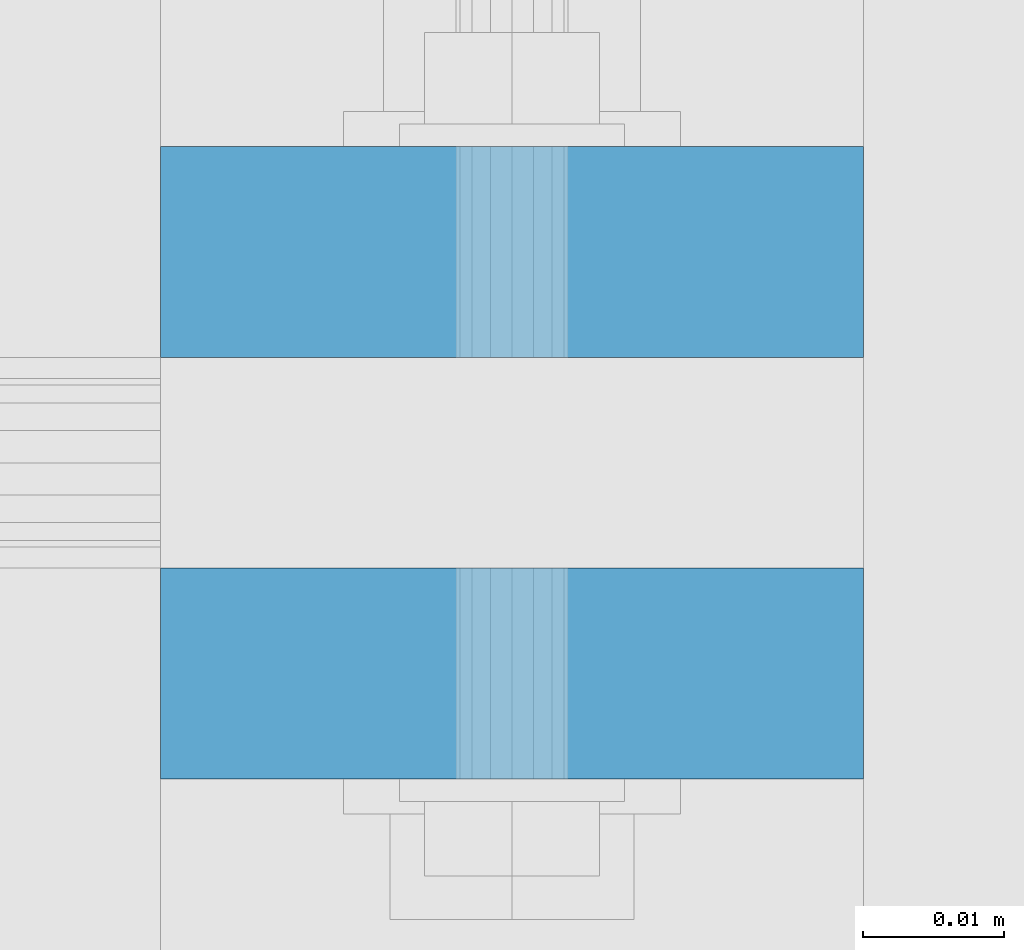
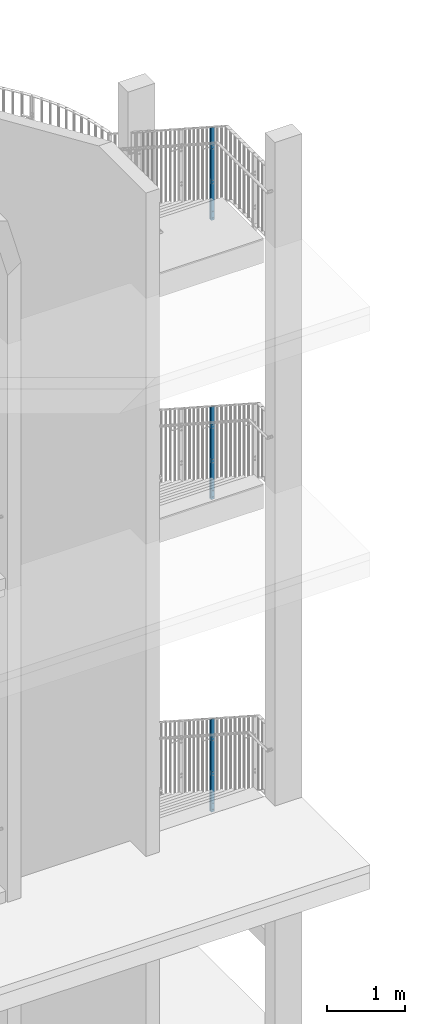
# One storey, part 33 of 296: 6 columns, 36 openings.
"""IFC2X3 building model written with IfcOpenShell, lengths in millimetres."""

from ifc_helpers import new_model, entity, si_unit, converted_unit, frame, frame_2d, origin, origin_with_axes, origin_2d, place, context, project, spatial, rectangle, circle, extrude, clip, halfspace, material, element, save


model = new_model("IFC2X3")

# Units and contexts
model_context = context("Model", 3, precision=1e-09, world=origin_with_axes())
ifc_project = project(units=[si_unit("LENGTHUNIT", "METRE", prefix="MILLI"), si_unit("AREAUNIT", "SQUARE_METRE"), si_unit("VOLUMEUNIT", "CUBIC_METRE"), converted_unit("PLANEANGLEUNIT", "DEGREE", entity("IfcPlaneAngleMeasure", 0.01745329), si_unit("PLANEANGLEUNIT", "RADIAN"), dimensions=[0, 0, 0, 0, 0, 0, 0])], contexts=[model_context])

# Site, building, storey
site_placement = place(None, origin_with_axes())
site = spatial("IfcSite", under=ifc_project, at=site_placement, Name="TZD-S?d | Treppenhausgel?nder", CompositionType="ELEMENT")
building_placement = place(site_placement, origin_with_axes())
building = spatial("IfcBuilding", under=site, at=building_placement, Name="Struktur 1", CompositionType="ELEMENT")
storey_placement = place(building_placement, origin_with_axes())
storey = spatial("IfcBuildingStorey", under=building, at=storey_placement, Name="Default Storey", CompositionType="ELEMENT", Elevation=0.0)

# Column, openings
ifc_material = material(Name="S235JR")
column_1_placement = place(None, frame((5894.999, -2320.0, 13055.001), z_axis=(0.0, 0.0, 1.0), x_axis=(0.0, -1.0, 0.0)))
column_1 = element("IfcColumn", 1, at=column_1_placement, inside=storey, material=ifc_material, Name="-", ObjectType="-", context=model_context, shape_type="Clipping", body=[
    clip(extrude(rectangle(XDim=15.0, YDim=50.0, at=origin_2d()), origin(), (0.0, 0.0, 1.0), 1461.675212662), halfspace(frame((-8243.187002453, -5894.999, -3906.409055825), z_axis=(0.543478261, 0.0, -0.839423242), x_axis=(0.0, 1.0, 0.0)), True)),
])
opening_1_placement = place(column_1_placement, frame((-8.0, 7.001, 135.0), z_axis=(-1.0, 0.0, 0.0), x_axis=(0.0, -1.0, 0.0)))
element("IfcOpeningElement", 2, at=opening_1_placement, cuts=column_1, ObjectType="Opening", context=model_context, shape_type="SweptSolid", body=[
    extrude(circle(Radius=7.001, at=frame_2d((7.001, 0.0), x_axis=(1.0, 0.0))), origin(), (0.0, 0.0, -1.0), 16.0),
])
opening_2_placement = place(column_1_placement, frame((-8.0, 7.001, 35.0), z_axis=(-1.0, 0.0, 0.0), x_axis=(0.0, -1.0, 0.0)))
element("IfcOpeningElement", 3, at=opening_2_placement, cuts=column_1, ObjectType="Opening", context=model_context, shape_type="SweptSolid", body=[
    extrude(circle(Radius=7.001, at=frame_2d((7.001, 0.0), x_axis=(1.0, 0.0))), origin(), (0.0, 0.0, -1.0), 16.0),
])
opening_3_placement = place(column_1_placement, frame((-8.0, 5.001, 624.999999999), z_axis=(-1.0, 0.0, 0.0), x_axis=(0.0, -1.0, 0.0)))
element("IfcOpeningElement", 4, at=opening_3_placement, cuts=column_1, ObjectType="Opening", context=model_context, shape_type="SweptSolid", body=[
    extrude(circle(Radius=5.001, at=frame_2d((5.001, 0.0), x_axis=(1.0, 0.0))), origin(), (0.0, 0.0, -1.0), 16.0),
])
opening_4_placement = place(column_1_placement, frame((-8.0, 5.001, 574.999999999), z_axis=(-1.0, 0.0, 0.0), x_axis=(0.0, -1.0, 0.0)))
element("IfcOpeningElement", 5, at=opening_4_placement, cuts=column_1, ObjectType="Opening", context=model_context, shape_type="SweptSolid", body=[
    extrude(circle(Radius=5.001, at=frame_2d((5.001, 0.0), x_axis=(1.0, 0.0))), origin(), (0.0, 0.0, -1.0), 16.0),
])
opening_5_placement = place(column_1_placement, frame((-8.0, 5.001, 1167.792547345), z_axis=(-1.0, 0.0, 0.0), x_axis=(0.0, -1.0, 0.0)))
element("IfcOpeningElement", 6, at=opening_5_placement, cuts=column_1, ObjectType="Opening", context=model_context, shape_type="SweptSolid", body=[
    extrude(circle(Radius=5.001, at=frame_2d((5.001, 0.0), x_axis=(1.0, 0.0))), origin(), (0.0, 0.0, -1.0), 16.0),
])
opening_6_placement = place(column_1_placement, frame((-8.0, 5.001, 1117.792547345), z_axis=(-1.0, 0.0, 0.0), x_axis=(0.0, -1.0, 0.0)))
element("IfcOpeningElement", 7, at=opening_6_placement, cuts=column_1, ObjectType="Opening", context=model_context, shape_type="SweptSolid", body=[
    extrude(circle(Radius=5.001, at=frame_2d((5.001, 0.0), x_axis=(1.0, 0.0))), origin(), (0.0, 0.0, -1.0), 16.0),
])

column_2_placement = place(None, frame((5894.999, -2350.0, 13055.001), z_axis=(0.0, 0.0, -1.0), x_axis=(0.0, 1.0, 0.0)))
column_2 = element("IfcColumn", 8, at=column_2_placement, inside=storey, material=ifc_material, Name="-", ObjectType="-", context=model_context, shape_type="Clipping", body=[
    clip(extrude(rectangle(XDim=15.0, YDim=50.0, at=origin_2d()), origin(), (0.0, 0.0, -1.0), 1481.098486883), halfspace(frame((8273.187002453, -5894.999, 3906.409055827), z_axis=(-0.543478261, 0.0, 0.839423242), x_axis=(0.0, 1.0, 0.0)), True)),
])
opening_7_placement = place(column_2_placement, frame((8.0, 5.001, -624.999999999), z_axis=(1.0, 0.0, 0.0), x_axis=(0.0, 1.0, 0.0)))
element("IfcOpeningElement", 9, at=opening_7_placement, cuts=column_2, ObjectType="Opening", context=model_context, shape_type="SweptSolid", body=[
    extrude(circle(Radius=5.001, at=frame_2d((-5.001, 0.0), x_axis=(1.0, 0.0))), origin(), (0.0, 0.0, -1.0), 16.0),
])
opening_8_placement = place(column_2_placement, frame((8.0, 5.001, -574.999999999), z_axis=(1.0, 0.0, 0.0), x_axis=(0.0, 1.0, 0.0)))
element("IfcOpeningElement", 10, at=opening_8_placement, cuts=column_2, ObjectType="Opening", context=model_context, shape_type="SweptSolid", body=[
    extrude(circle(Radius=5.001, at=frame_2d((-5.001, 0.0), x_axis=(1.0, 0.0))), origin(), (0.0, 0.0, -1.0), 16.0),
])
opening_9_placement = place(column_2_placement, frame((8.0, 7.001, -135.0), z_axis=(1.0, 0.0, 0.0), x_axis=(0.0, 1.0, 0.0)))
element("IfcOpeningElement", 11, at=opening_9_placement, cuts=column_2, ObjectType="Opening", context=model_context, shape_type="SweptSolid", body=[
    extrude(circle(Radius=7.001, at=frame_2d((-7.001, 0.0), x_axis=(1.0, 0.0))), origin(), (0.0, 0.0, -1.0), 16.0),
])
opening_10_placement = place(column_2_placement, frame((8.0, 7.001, -35.0), z_axis=(1.0, 0.0, 0.0), x_axis=(0.0, 1.0, 0.0)))
element("IfcOpeningElement", 12, at=opening_10_placement, cuts=column_2, ObjectType="Opening", context=model_context, shape_type="SweptSolid", body=[
    extrude(circle(Radius=7.001, at=frame_2d((-7.001, 0.0), x_axis=(1.0, 0.0))), origin(), (0.0, 0.0, -1.0), 16.0),
])
opening_11_placement = place(column_2_placement, frame((8.0, 5.001, -1167.792547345), z_axis=(1.0, 0.0, 0.0), x_axis=(0.0, 1.0, 0.0)))
element("IfcOpeningElement", 13, at=opening_11_placement, cuts=column_2, ObjectType="Opening", context=model_context, shape_type="SweptSolid", body=[
    extrude(circle(Radius=5.001, at=frame_2d((-5.001, 0.0), x_axis=(1.0, 0.0))), origin(), (0.0, 0.0, -1.0), 16.0),
])
opening_12_placement = place(column_2_placement, frame((8.0, 5.001, -1117.792547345), z_axis=(1.0, 0.0, 0.0), x_axis=(0.0, 1.0, 0.0)))
element("IfcOpeningElement", 14, at=opening_12_placement, cuts=column_2, ObjectType="Opening", context=model_context, shape_type="SweptSolid", body=[
    extrude(circle(Radius=5.001, at=frame_2d((-5.001, 0.0), x_axis=(1.0, 0.0))), origin(), (0.0, 0.0, -1.0), 16.0),
])

column_3_placement = place(None, frame((5894.999, -2320.0, 8679.997), z_axis=(0.0, 0.0, 1.0), x_axis=(0.0, -1.0, 0.0)))
column_3 = element("IfcColumn", 15, at=column_3_placement, inside=storey, material=ifc_material, Name="-", ObjectType="-", context=model_context, shape_type="Clipping", body=[
    clip(extrude(rectangle(XDim=15.0, YDim=50.0, at=origin_2d()), origin(), (0.0, 0.0, 1.0), 1458.750913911), halfspace(frame((-6246.250683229, -5894.999, -2617.80668189), z_axis=(0.543608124, 0.0, -0.839339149), x_axis=(0.0, 1.0, 0.0)), True)),
])
opening_13_placement = place(column_3_placement, frame((-8.0, 7.001, 135.0), z_axis=(-1.0, 0.0, 0.0), x_axis=(0.0, -1.0, 0.0)))
element("IfcOpeningElement", 16, at=opening_13_placement, cuts=column_3, ObjectType="Opening", context=model_context, shape_type="SweptSolid", body=[
    extrude(circle(Radius=7.001, at=frame_2d((7.001, 0.0), x_axis=(1.0, 0.0))), origin(), (0.0, 0.0, -1.0), 16.0),
])
opening_14_placement = place(column_3_placement, frame((-8.0, 7.001, 35.0), z_axis=(-1.0, 0.0, 0.0), x_axis=(0.0, -1.0, 0.0)))
element("IfcOpeningElement", 17, at=opening_14_placement, cuts=column_3, ObjectType="Opening", context=model_context, shape_type="SweptSolid", body=[
    extrude(circle(Radius=7.001, at=frame_2d((7.001, 0.0), x_axis=(1.0, 0.0))), origin(), (0.0, 0.0, -1.0), 16.0),
])
opening_15_placement = place(column_3_placement, frame((-8.0, 5.001, 1164.865944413), z_axis=(-1.0, 0.0, 0.0), x_axis=(0.0, -1.0, 0.0)))
element("IfcOpeningElement", 18, at=opening_15_placement, cuts=column_3, ObjectType="Opening", context=model_context, shape_type="SweptSolid", body=[
    extrude(circle(Radius=5.001, at=frame_2d((5.001, 0.0), x_axis=(1.0, 0.0))), origin(), (0.0, 0.0, -1.0), 16.0),
])
opening_16_placement = place(column_3_placement, frame((-8.0, 5.001, 1114.865944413), z_axis=(-1.0, 0.0, 0.0), x_axis=(0.0, -1.0, 0.0)))
element("IfcOpeningElement", 19, at=opening_16_placement, cuts=column_3, ObjectType="Opening", context=model_context, shape_type="SweptSolid", body=[
    extrude(circle(Radius=5.001, at=frame_2d((5.001, 0.0), x_axis=(1.0, 0.0))), origin(), (0.0, 0.0, -1.0), 16.0),
])
opening_17_placement = place(column_3_placement, frame((-8.0, 5.001, 624.999999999), z_axis=(-1.0, 0.0, 0.0), x_axis=(0.0, -1.0, 0.0)))
element("IfcOpeningElement", 20, at=opening_17_placement, cuts=column_3, ObjectType="Opening", context=model_context, shape_type="SweptSolid", body=[
    extrude(circle(Radius=5.001, at=frame_2d((5.001, 0.0), x_axis=(1.0, 0.0))), origin(), (0.0, 0.0, -1.0), 16.0),
])
opening_18_placement = place(column_3_placement, frame((-8.0, 5.001, 574.999999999), z_axis=(-1.0, 0.0, 0.0), x_axis=(0.0, -1.0, 0.0)))
element("IfcOpeningElement", 21, at=opening_18_placement, cuts=column_3, ObjectType="Opening", context=model_context, shape_type="SweptSolid", body=[
    extrude(circle(Radius=5.001, at=frame_2d((5.001, 0.0), x_axis=(1.0, 0.0))), origin(), (0.0, 0.0, -1.0), 16.0),
])

column_4_placement = place(None, frame((5894.999, -2350.0, 8679.997), z_axis=(0.0, 0.0, -1.0), x_axis=(0.0, 1.0, 0.0)))
column_4 = element("IfcColumn", 22, at=column_4_placement, inside=storey, material=ifc_material, Name="-", ObjectType="-", context=model_context, shape_type="Clipping", body=[
    clip(extrude(rectangle(XDim=15.0, YDim=50.0, at=origin_2d()), origin(), (0.0, 0.0, -1.0), 1478.180775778), halfspace(frame((6276.250683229, -5894.999, 2617.80668189), z_axis=(-0.543608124, 0.0, 0.839339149), x_axis=(0.0, 1.0, 0.0)), True)),
])
opening_19_placement = place(column_4_placement, frame((8.0, 7.001, -135.0), z_axis=(1.0, 0.0, 0.0), x_axis=(0.0, 1.0, 0.0)))
element("IfcOpeningElement", 23, at=opening_19_placement, cuts=column_4, ObjectType="Opening", context=model_context, shape_type="SweptSolid", body=[
    extrude(circle(Radius=7.001, at=frame_2d((-7.001, 0.0), x_axis=(1.0, 0.0))), origin(), (0.0, 0.0, -1.0), 16.0),
])
opening_20_placement = place(column_4_placement, frame((8.0, 7.001, -35.0), z_axis=(1.0, 0.0, 0.0), x_axis=(0.0, 1.0, 0.0)))
element("IfcOpeningElement", 24, at=opening_20_placement, cuts=column_4, ObjectType="Opening", context=model_context, shape_type="SweptSolid", body=[
    extrude(circle(Radius=7.001, at=frame_2d((-7.001, 0.0), x_axis=(1.0, 0.0))), origin(), (0.0, 0.0, -1.0), 16.0),
])
opening_21_placement = place(column_4_placement, frame((8.0, 5.001, -1164.865944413), z_axis=(1.0, 0.0, 0.0), x_axis=(0.0, 1.0, 0.0)))
element("IfcOpeningElement", 25, at=opening_21_placement, cuts=column_4, ObjectType="Opening", context=model_context, shape_type="SweptSolid", body=[
    extrude(circle(Radius=5.001, at=frame_2d((-5.001, 0.0), x_axis=(1.0, 0.0))), origin(), (0.0, 0.0, -1.0), 16.0),
])
opening_22_placement = place(column_4_placement, frame((8.0, 5.001, -1114.865944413), z_axis=(1.0, 0.0, 0.0), x_axis=(0.0, 1.0, 0.0)))
element("IfcOpeningElement", 26, at=opening_22_placement, cuts=column_4, ObjectType="Opening", context=model_context, shape_type="SweptSolid", body=[
    extrude(circle(Radius=5.001, at=frame_2d((-5.001, 0.0), x_axis=(1.0, 0.0))), origin(), (0.0, 0.0, -1.0), 16.0),
])
opening_23_placement = place(column_4_placement, frame((8.0, 5.001, -624.999999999), z_axis=(1.0, 0.0, 0.0), x_axis=(0.0, 1.0, 0.0)))
element("IfcOpeningElement", 27, at=opening_23_placement, cuts=column_4, ObjectType="Opening", context=model_context, shape_type="SweptSolid", body=[
    extrude(circle(Radius=5.001, at=frame_2d((-5.001, 0.0), x_axis=(1.0, 0.0))), origin(), (0.0, 0.0, -1.0), 16.0),
])
opening_24_placement = place(column_4_placement, frame((8.0, 5.001, -574.999999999), z_axis=(1.0, 0.0, 0.0), x_axis=(0.0, 1.0, 0.0)))
element("IfcOpeningElement", 28, at=opening_24_placement, cuts=column_4, ObjectType="Opening", context=model_context, shape_type="SweptSolid", body=[
    extrude(circle(Radius=5.001, at=frame_2d((-5.001, 0.0), x_axis=(1.0, 0.0))), origin(), (0.0, 0.0, -1.0), 16.0),
])

column_5_placement = place(None, frame((5894.999, -2320.0, 3779.997), z_axis=(0.0, 0.0, 1.0), x_axis=(0.0, -1.0, 0.0)))
column_5 = element("IfcColumn", 29, at=column_5_placement, inside=storey, material=ifc_material, Name="-", ObjectType="-", context=model_context, shape_type="Clipping", body=[
    clip(extrude(rectangle(XDim=15.0, YDim=50.0, at=origin_2d()), origin(), (0.0, 0.0, 1.0), 1463.295118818), halfspace(frame((-4012.585742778, -5894.999, -1162.188152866), z_axis=(0.542959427, 0.0, -0.83975893), x_axis=(0.0, 1.0, 0.0)), True)),
])
opening_25_placement = place(column_5_placement, frame((-8.0, 7.001, 135.0), z_axis=(-1.0, 0.0, 0.0), x_axis=(0.0, -1.0, 0.0)))
element("IfcOpeningElement", 30, at=opening_25_placement, cuts=column_5, ObjectType="Opening", context=model_context, shape_type="SweptSolid", body=[
    extrude(circle(Radius=7.001, at=frame_2d((7.001, 0.0), x_axis=(1.0, 0.0))), origin(), (0.0, 0.0, -1.0), 16.0),
])
opening_26_placement = place(column_5_placement, frame((-8.0, 7.001, 35.0), z_axis=(-1.0, 0.0, 0.0), x_axis=(0.0, -1.0, 0.0)))
element("IfcOpeningElement", 31, at=opening_26_placement, cuts=column_5, ObjectType="Opening", context=model_context, shape_type="SweptSolid", body=[
    extrude(circle(Radius=7.001, at=frame_2d((7.001, 0.0), x_axis=(1.0, 0.0))), origin(), (0.0, 0.0, -1.0), 16.0),
])
opening_27_placement = place(column_5_placement, frame((-8.0, 5.001, 624.999999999), z_axis=(-1.0, 0.0, 0.0), x_axis=(0.0, -1.0, 0.0)))
element("IfcOpeningElement", 32, at=opening_27_placement, cuts=column_5, ObjectType="Opening", context=model_context, shape_type="SweptSolid", body=[
    extrude(circle(Radius=5.001, at=frame_2d((5.001, 0.0), x_axis=(1.0, 0.0))), origin(), (0.0, 0.0, -1.0), 16.0),
])
opening_28_placement = place(column_5_placement, frame((-8.0, 5.001, 574.999999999), z_axis=(-1.0, 0.0, 0.0), x_axis=(0.0, -1.0, 0.0)))
element("IfcOpeningElement", 33, at=opening_28_placement, cuts=column_5, ObjectType="Opening", context=model_context, shape_type="SweptSolid", body=[
    extrude(circle(Radius=5.001, at=frame_2d((5.001, 0.0), x_axis=(1.0, 0.0))), origin(), (0.0, 0.0, -1.0), 16.0),
])
opening_29_placement = place(column_5_placement, frame((-8.0, 5.001, 1169.421636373), z_axis=(-1.0, 0.0, 0.0), x_axis=(0.0, -1.0, 0.0)))
element("IfcOpeningElement", 34, at=opening_29_placement, cuts=column_5, ObjectType="Opening", context=model_context, shape_type="SweptSolid", body=[
    extrude(circle(Radius=5.001, at=frame_2d((5.001, 0.0), x_axis=(1.0, 0.0))), origin(), (0.0, 0.0, -1.0), 16.0),
])
opening_30_placement = place(column_5_placement, frame((-8.0, 5.001, 1119.421636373), z_axis=(-1.0, 0.0, 0.0), x_axis=(0.0, -1.0, 0.0)))
element("IfcOpeningElement", 35, at=opening_30_placement, cuts=column_5, ObjectType="Opening", context=model_context, shape_type="SweptSolid", body=[
    extrude(circle(Radius=5.001, at=frame_2d((5.001, 0.0), x_axis=(1.0, 0.0))), origin(), (0.0, 0.0, -1.0), 16.0),
])

column_6_placement = place(None, frame((5894.999, -2350.0, 3779.997), z_axis=(0.0, 0.0, -1.0), x_axis=(0.0, 1.0, 0.0)))
column_6 = element("IfcColumn", 36, at=column_6_placement, inside=storey, material=ifc_material, Name="-", ObjectType="-", context=model_context, shape_type="Clipping", body=[
    clip(extrude(rectangle(XDim=15.0, YDim=50.0, at=origin_2d()), origin(), (0.0, 0.0, -1.0), 1482.692093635), halfspace(frame((4042.585742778, -5894.999, 1162.188152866), z_axis=(-0.542959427, 0.0, 0.83975893), x_axis=(0.0, 1.0, 0.0)), True)),
])
opening_31_placement = place(column_6_placement, frame((8.0, 5.001, -1169.421636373), z_axis=(1.0, 0.0, 0.0), x_axis=(0.0, 1.0, 0.0)))
element("IfcOpeningElement", 37, at=opening_31_placement, cuts=column_6, ObjectType="Opening", context=model_context, shape_type="SweptSolid", body=[
    extrude(circle(Radius=5.001, at=frame_2d((-5.001, 0.0), x_axis=(1.0, 0.0))), origin(), (0.0, 0.0, -1.0), 16.0),
])
opening_32_placement = place(column_6_placement, frame((8.0, 5.001, -1119.421636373), z_axis=(1.0, 0.0, 0.0), x_axis=(0.0, 1.0, 0.0)))
element("IfcOpeningElement", 38, at=opening_32_placement, cuts=column_6, ObjectType="Opening", context=model_context, shape_type="SweptSolid", body=[
    extrude(circle(Radius=5.001, at=frame_2d((-5.001, 0.0), x_axis=(1.0, 0.0))), origin(), (0.0, 0.0, -1.0), 16.0),
])
opening_33_placement = place(column_6_placement, frame((8.0, 5.001, -624.999999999), z_axis=(1.0, 0.0, 0.0), x_axis=(0.0, 1.0, 0.0)))
element("IfcOpeningElement", 39, at=opening_33_placement, cuts=column_6, ObjectType="Opening", context=model_context, shape_type="SweptSolid", body=[
    extrude(circle(Radius=5.001, at=frame_2d((-5.001, 0.0), x_axis=(1.0, 0.0))), origin(), (0.0, 0.0, -1.0), 16.0),
])
opening_34_placement = place(column_6_placement, frame((8.0, 5.001, -574.999999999), z_axis=(1.0, 0.0, 0.0), x_axis=(0.0, 1.0, 0.0)))
element("IfcOpeningElement", 40, at=opening_34_placement, cuts=column_6, ObjectType="Opening", context=model_context, shape_type="SweptSolid", body=[
    extrude(circle(Radius=5.001, at=frame_2d((-5.001, 0.0), x_axis=(1.0, 0.0))), origin(), (0.0, 0.0, -1.0), 16.0),
])
opening_35_placement = place(column_6_placement, frame((8.0, 7.001, -135.0), z_axis=(1.0, 0.0, 0.0), x_axis=(0.0, 1.0, 0.0)))
element("IfcOpeningElement", 41, at=opening_35_placement, cuts=column_6, ObjectType="Opening", context=model_context, shape_type="SweptSolid", body=[
    extrude(circle(Radius=7.001, at=frame_2d((-7.001, 0.0), x_axis=(1.0, 0.0))), origin(), (0.0, 0.0, -1.0), 16.0),
])
opening_36_placement = place(column_6_placement, frame((8.0, 7.001, -35.0), z_axis=(1.0, 0.0, 0.0), x_axis=(0.0, 1.0, 0.0)))
element("IfcOpeningElement", 42, at=opening_36_placement, cuts=column_6, ObjectType="Opening", context=model_context, shape_type="SweptSolid", body=[
    extrude(circle(Radius=7.001, at=frame_2d((-7.001, 0.0), x_axis=(1.0, 0.0))), origin(), (0.0, 0.0, -1.0), 16.0),
])

save(model, "model.ifc")
